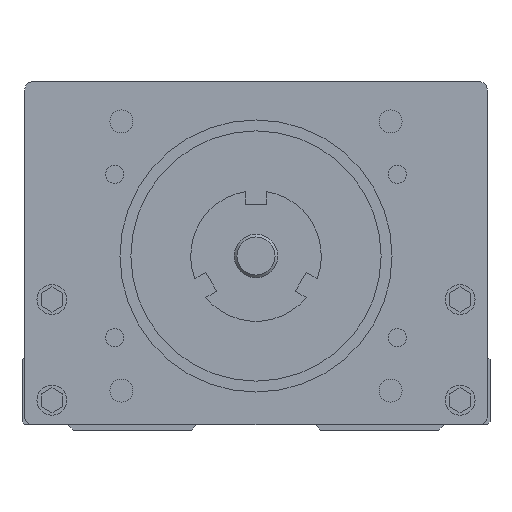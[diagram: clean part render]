
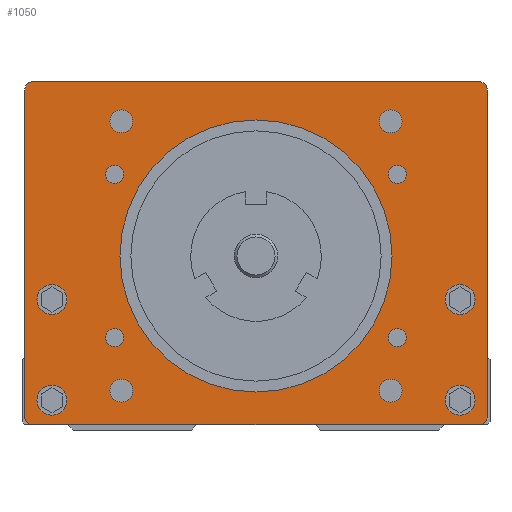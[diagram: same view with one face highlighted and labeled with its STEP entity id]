
A CAD part, front view. The second image highlights one B-rep face of the part: STEP entity #1050.
In plain terms, the highlighted planar face has unit normal (0, -1, 0).
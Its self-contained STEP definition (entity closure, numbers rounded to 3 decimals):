
#1050=ADVANCED_FACE('',(#2206,#2207,#2208,#2209,#2210,#2211,#2212,#2213,
#2214,#2215,#2216,#2217,#2218,#2219),#1544,.F.);
#1544=PLANE('',#8959);
#1867=CIRCLE('',#8931,1.5);
#1874=CIRCLE('',#8942,1.5);
#1875=CIRCLE('',#8944,1.5);
#1876=CIRCLE('',#8945,1.5);
#1877=CIRCLE('',#8946,2.75);
#1878=CIRCLE('',#8947,2.75);
#1879=CIRCLE('',#8948,2.75);
#1880=CIRCLE('',#8949,2.75);
#1881=CIRCLE('',#8950,25.);
#1882=CIRCLE('',#8951,1.65);
#1883=CIRCLE('',#8952,1.65);
#1884=CIRCLE('',#8953,1.65);
#1885=CIRCLE('',#8954,1.65);
#1886=CIRCLE('',#8955,2.1);
#1887=CIRCLE('',#8956,2.1);
#1888=CIRCLE('',#8957,2.1);
#1889=CIRCLE('',#8958,2.1);
#2206=FACE_BOUND('',#2606,.T.);
#2207=FACE_BOUND('',#2607,.T.);
#2208=FACE_BOUND('',#2608,.T.);
#2209=FACE_BOUND('',#2609,.T.);
#2210=FACE_BOUND('',#2610,.T.);
#2211=FACE_BOUND('',#2611,.T.);
#2212=FACE_BOUND('',#2612,.T.);
#2213=FACE_BOUND('',#2613,.T.);
#2214=FACE_BOUND('',#2614,.T.);
#2215=FACE_BOUND('',#2615,.T.);
#2216=FACE_BOUND('',#2616,.T.);
#2217=FACE_BOUND('',#2617,.T.);
#2218=FACE_BOUND('',#2618,.T.);
#2219=FACE_BOUND('',#2619,.T.);
#2606=EDGE_LOOP('',(#3619,#3620,#3621,#3622,#3623,#3624,#3625,#3626));
#2607=EDGE_LOOP('',(#3627));
#2608=EDGE_LOOP('',(#3628));
#2609=EDGE_LOOP('',(#3629));
#2610=EDGE_LOOP('',(#3630));
#2611=EDGE_LOOP('',(#3631));
#2612=EDGE_LOOP('',(#3632));
#2613=EDGE_LOOP('',(#3633));
#2614=EDGE_LOOP('',(#3634));
#2615=EDGE_LOOP('',(#3635));
#2616=EDGE_LOOP('',(#3636));
#2617=EDGE_LOOP('',(#3637));
#2618=EDGE_LOOP('',(#3638));
#2619=EDGE_LOOP('',(#3639));
#3619=ORIENTED_EDGE('',*,*,#6279,.T.);
#3620=ORIENTED_EDGE('',*,*,#6521,.F.);
#3621=ORIENTED_EDGE('',*,*,#6482,.T.);
#3622=ORIENTED_EDGE('',*,*,#6520,.F.);
#3623=ORIENTED_EDGE('',*,*,#6507,.T.);
#3624=ORIENTED_EDGE('',*,*,#6505,.F.);
#3625=ORIENTED_EDGE('',*,*,#6497,.T.);
#3626=ORIENTED_EDGE('',*,*,#6522,.F.);
#3627=ORIENTED_EDGE('',*,*,#6523,.F.);
#3628=ORIENTED_EDGE('',*,*,#6524,.F.);
#3629=ORIENTED_EDGE('',*,*,#6525,.F.);
#3630=ORIENTED_EDGE('',*,*,#6526,.F.);
#3631=ORIENTED_EDGE('',*,*,#6527,.F.);
#3632=ORIENTED_EDGE('',*,*,#6528,.F.);
#3633=ORIENTED_EDGE('',*,*,#6529,.F.);
#3634=ORIENTED_EDGE('',*,*,#6530,.F.);
#3635=ORIENTED_EDGE('',*,*,#6531,.F.);
#3636=ORIENTED_EDGE('',*,*,#6532,.F.);
#3637=ORIENTED_EDGE('',*,*,#6533,.F.);
#3638=ORIENTED_EDGE('',*,*,#6534,.F.);
#3639=ORIENTED_EDGE('',*,*,#6535,.F.);
#5502=VERTEX_POINT('',#12253);
#5503=VERTEX_POINT('',#12255);
#5655=VERTEX_POINT('',#12704);
#5656=VERTEX_POINT('',#12706);
#5669=VERTEX_POINT('',#12736);
#5670=VERTEX_POINT('',#12738);
#5674=VERTEX_POINT('',#12754);
#5675=VERTEX_POINT('',#12758);
#5685=VERTEX_POINT('',#12788);
#5686=VERTEX_POINT('',#12790);
#5687=VERTEX_POINT('',#12792);
#5688=VERTEX_POINT('',#12794);
#5689=VERTEX_POINT('',#12796);
#5690=VERTEX_POINT('',#12798);
#5691=VERTEX_POINT('',#12800);
#5692=VERTEX_POINT('',#12802);
#5693=VERTEX_POINT('',#12804);
#5694=VERTEX_POINT('',#12806);
#5695=VERTEX_POINT('',#12808);
#5696=VERTEX_POINT('',#12810);
#5697=VERTEX_POINT('',#12812);
#6279=EDGE_CURVE('',#5503,#5502,#7396,.T.);
#6482=EDGE_CURVE('',#5656,#5655,#7534,.T.);
#6497=EDGE_CURVE('',#5670,#5669,#7545,.T.);
#6505=EDGE_CURVE('',#5670,#5674,#1867,.T.);
#6507=EDGE_CURVE('',#5675,#5674,#7550,.T.);
#6520=EDGE_CURVE('',#5675,#5655,#1874,.T.);
#6521=EDGE_CURVE('',#5656,#5502,#1875,.T.);
#6522=EDGE_CURVE('',#5503,#5669,#1876,.T.);
#6523=EDGE_CURVE('',#5685,#5685,#1877,.T.);
#6524=EDGE_CURVE('',#5686,#5686,#1878,.T.);
#6525=EDGE_CURVE('',#5687,#5687,#1879,.T.);
#6526=EDGE_CURVE('',#5688,#5688,#1880,.T.);
#6527=EDGE_CURVE('',#5689,#5689,#1881,.T.);
#6528=EDGE_CURVE('',#5690,#5690,#1882,.T.);
#6529=EDGE_CURVE('',#5691,#5691,#1883,.T.);
#6530=EDGE_CURVE('',#5692,#5692,#1884,.T.);
#6531=EDGE_CURVE('',#5693,#5693,#1885,.T.);
#6532=EDGE_CURVE('',#5694,#5694,#1886,.T.);
#6533=EDGE_CURVE('',#5695,#5695,#1887,.T.);
#6534=EDGE_CURVE('',#5696,#5696,#1888,.T.);
#6535=EDGE_CURVE('',#5697,#5697,#1889,.T.);
#7396=LINE('',#12254,#8119);
#7534=LINE('',#12705,#8257);
#7545=LINE('',#12737,#8268);
#7550=LINE('',#12757,#8273);
#8119=VECTOR('',#9734,1.);
#8257=VECTOR('',#10064,1.);
#8268=VECTOR('',#10089,1.);
#8273=VECTOR('',#10114,1.);
#8931=AXIS2_PLACEMENT_3D('',#12753,#10109,#10110);
#8942=AXIS2_PLACEMENT_3D('',#12783,#10139,#10140);
#8944=AXIS2_PLACEMENT_3D('',#12785,#10143,#10144);
#8945=AXIS2_PLACEMENT_3D('',#12786,#10145,#10146);
#8946=AXIS2_PLACEMENT_3D('',#12787,#10147,#10148);
#8947=AXIS2_PLACEMENT_3D('',#12789,#10149,#10150);
#8948=AXIS2_PLACEMENT_3D('',#12791,#10151,#10152);
#8949=AXIS2_PLACEMENT_3D('',#12793,#10153,#10154);
#8950=AXIS2_PLACEMENT_3D('',#12795,#10155,#10156);
#8951=AXIS2_PLACEMENT_3D('',#12797,#10157,#10158);
#8952=AXIS2_PLACEMENT_3D('',#12799,#10159,#10160);
#8953=AXIS2_PLACEMENT_3D('',#12801,#10161,#10162);
#8954=AXIS2_PLACEMENT_3D('',#12803,#10163,#10164);
#8955=AXIS2_PLACEMENT_3D('',#12805,#10165,#10166);
#8956=AXIS2_PLACEMENT_3D('',#12807,#10167,#10168);
#8957=AXIS2_PLACEMENT_3D('',#12809,#10169,#10170);
#8958=AXIS2_PLACEMENT_3D('',#12811,#10171,#10172);
#8959=AXIS2_PLACEMENT_3D('',#12813,#10173,#10174);
#9734=DIRECTION('',(1.,0.,0.));
#10064=DIRECTION('',(0.,0.,1.));
#10089=DIRECTION('',(0.,0.,-1.));
#10109=DIRECTION('',(0.,1.,0.));
#10110=DIRECTION('',(-1.,0.,0.));
#10114=DIRECTION('',(-1.,0.,0.));
#10139=DIRECTION('',(0.,1.,0.));
#10140=DIRECTION('',(0.,0.,1.));
#10143=DIRECTION('',(0.,1.,0.));
#10144=DIRECTION('',(1.,0.,0.));
#10145=DIRECTION('',(0.,1.,0.));
#10146=DIRECTION('',(0.,0.,-1.));
#10147=DIRECTION('',(0.,-1.,0.));
#10148=DIRECTION('',(0.,0.,1.));
#10149=DIRECTION('',(0.,-1.,0.));
#10150=DIRECTION('',(0.,0.,1.));
#10151=DIRECTION('',(0.,-1.,0.));
#10152=DIRECTION('',(0.,0.,1.));
#10153=DIRECTION('',(0.,-1.,0.));
#10154=DIRECTION('',(0.,0.,1.));
#10155=DIRECTION('',(0.,-1.,0.));
#10156=DIRECTION('',(1.,0.,0.));
#10157=DIRECTION('',(0.,-1.,0.));
#10158=DIRECTION('',(1.,0.,0.));
#10159=DIRECTION('',(0.,-1.,0.));
#10160=DIRECTION('',(1.,0.,0.));
#10161=DIRECTION('',(0.,-1.,0.));
#10162=DIRECTION('',(1.,0.,0.));
#10163=DIRECTION('',(0.,-1.,0.));
#10164=DIRECTION('',(1.,0.,0.));
#10165=DIRECTION('',(0.,-1.,0.));
#10166=DIRECTION('',(1.,0.,0.));
#10167=DIRECTION('',(0.,-1.,0.));
#10168=DIRECTION('',(1.,0.,0.));
#10169=DIRECTION('',(0.,-1.,0.));
#10170=DIRECTION('',(1.,0.,0.));
#10171=DIRECTION('',(0.,-1.,0.));
#10172=DIRECTION('',(1.,0.,0.));
#10173=DIRECTION('',(0.,1.,0.));
#10174=DIRECTION('',(1.,0.,0.));
#12253=CARTESIAN_POINT('',(41.,50.,0.));
#12254=CARTESIAN_POINT('',(-41.,50.,0.));
#12255=CARTESIAN_POINT('',(-41.,50.,0.));
#12704=CARTESIAN_POINT('',(42.5,50.,61.5));
#12705=CARTESIAN_POINT('',(42.5,50.,1.5));
#12706=CARTESIAN_POINT('',(42.5,50.,1.5));
#12736=CARTESIAN_POINT('',(-42.5,50.,1.5));
#12737=CARTESIAN_POINT('',(-42.5,50.,61.5));
#12738=CARTESIAN_POINT('',(-42.5,50.,61.5));
#12753=CARTESIAN_POINT('',(-41.,50.,61.5));
#12754=CARTESIAN_POINT('',(-41.,50.,63.));
#12757=CARTESIAN_POINT('',(41.,50.,63.));
#12758=CARTESIAN_POINT('',(41.,50.,63.));
#12783=CARTESIAN_POINT('',(41.,50.,61.5));
#12785=CARTESIAN_POINT('',(41.,50.,1.5));
#12786=CARTESIAN_POINT('',(-41.,50.,1.5));
#12787=CARTESIAN_POINT('',(37.5,50.,4.5));
#12788=CARTESIAN_POINT('',(37.5,50.,7.25));
#12789=CARTESIAN_POINT('',(37.5,50.,23.));
#12790=CARTESIAN_POINT('',(37.5,50.,25.75));
#12791=CARTESIAN_POINT('',(-37.5,50.,23.));
#12792=CARTESIAN_POINT('',(-37.5,50.,25.75));
#12793=CARTESIAN_POINT('',(-37.5,50.,4.5));
#12794=CARTESIAN_POINT('',(-37.5,50.,7.25));
#12795=CARTESIAN_POINT('',(0.,50.,31.));
#12796=CARTESIAN_POINT('',(25.,50.,31.));
#12797=CARTESIAN_POINT('',(-25.981,50.,46.));
#12798=CARTESIAN_POINT('',(-24.331,50.,46.));
#12799=CARTESIAN_POINT('',(-25.981,50.,16.));
#12800=CARTESIAN_POINT('',(-24.331,50.,16.));
#12801=CARTESIAN_POINT('',(25.981,50.,16.));
#12802=CARTESIAN_POINT('',(27.631,50.,16.));
#12803=CARTESIAN_POINT('',(25.981,50.,46.));
#12804=CARTESIAN_POINT('',(27.631,50.,46.));
#12805=CARTESIAN_POINT('',(24.749,50.,55.749));
#12806=CARTESIAN_POINT('',(26.849,50.,55.749));
#12807=CARTESIAN_POINT('',(24.749,50.,6.251));
#12808=CARTESIAN_POINT('',(26.849,50.,6.251));
#12809=CARTESIAN_POINT('',(-24.749,50.,6.251));
#12810=CARTESIAN_POINT('',(-22.649,50.,6.251));
#12811=CARTESIAN_POINT('',(-24.749,50.,55.749));
#12812=CARTESIAN_POINT('',(-22.649,50.,55.749));
#12813=CARTESIAN_POINT('',(0.,50.,31.));
